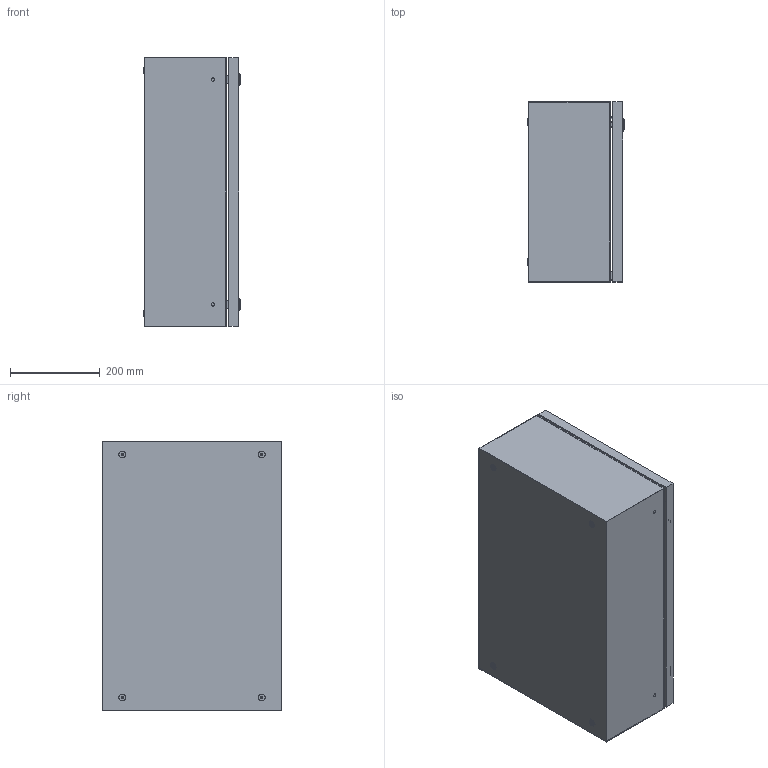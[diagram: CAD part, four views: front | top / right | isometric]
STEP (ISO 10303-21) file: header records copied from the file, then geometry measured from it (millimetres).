
FILE_DESCRIPTION(/* description */ ('Unknown'),/* implementation_level */ '2;1');
FILE_NAME(/* name */ 'CCA04006021',/* time_stamp */ '2024-07-26T15:48:51+02:00',/* author */ ('Unknown'),/* organization */ ('Unknown'),/* preprocessor_version */ 'ST-DEVELOPER v19.4',/* originating_system */ 'Solid Edge',/* authorisation */ 'Unknown');
FILE_SCHEMA (('AUTOMOTIVE_DESIGN {1 0 10303 214 3 1 1}'));
Length unit declared in the file: millimetre
Products named in the file (16): CCA04006021; C000X000.22_oa_0; C000X000.23_oa_1; C0000000.33; C0000000.02; AE00198.02; AE00989.09; AE00417.01; C000X000.21_oa_2; C0000000.15; C0000000.04; C0000000.05; AE00316.01; AE00601.01; AE00891.02; C0000000.01
Assembly tree (35 placements, depth 4):
  CCA04006021
    C000X000.22_oa_0
      C000X000.23_oa_1
        C0000000.33
      C0000000.02  x2
      AE00198.02  x2
      AE00989.09  x2
      AE00417.01  x2
    AE00198.02  x2
    C000X000.21_oa_2
      C0000000.15
      C0000000.04  x4
      C0000000.05  x4
      AE00316.01  x2
      AE00601.01  x2
      AE00891.02  x2
      C0000000.01  x2
      AE00417.01  x4
Bounding box: 215 x 400 x 600 mm (x, y, z)
Volume: 1717378.3 mm3; surface area: 1892958.1 mm2
Topology: 34 solids, 34 shells, 666 faces, 1620 edges, 1054 vertices
Faces by surface type: plane 434, cylinder 162, cone 36, torus 34
Full cylindrical faces by diameter (mm): 4 x2, 4.917 x6, 4.918 x2, 5.4 x2, 6 x14, 6.4 x2, 7.5 x6, 8 x4, 8.376 x8, 10 x6, 10.25 x4, 10.5 x4, 11 x2, 13.6 x2, 14 x4, 15 x4, 16 x4, 16.3 x2, 19.5 x2, 28 x2
Entity records: 11376 total; most frequent: CARTESIAN_POINT 1749, DIRECTION 1672, ORIENTED_EDGE 1540, EDGE_CURVE 770, AXIS2_PLACEMENT_3D 560, LINE 552, VECTOR 552, VERTEX_POINT 528
